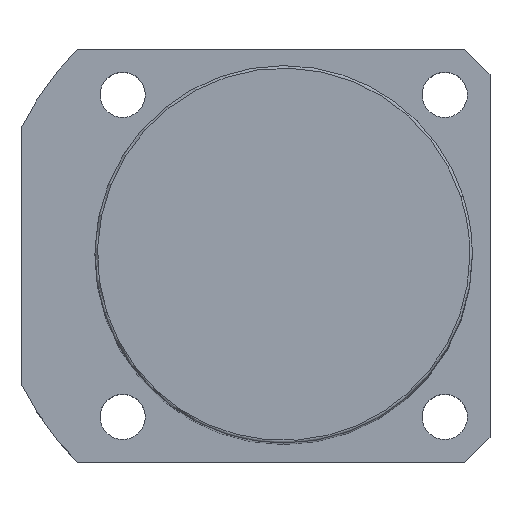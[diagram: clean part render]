
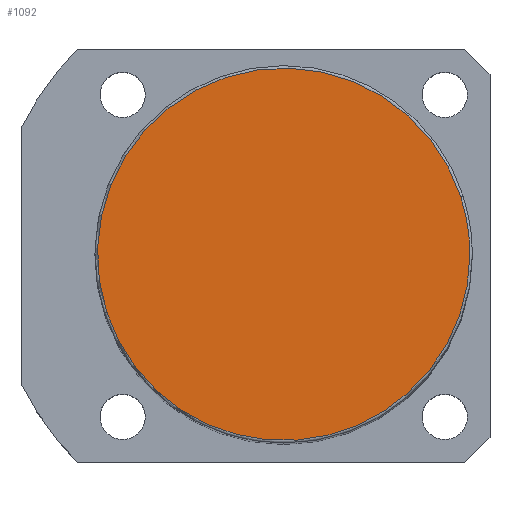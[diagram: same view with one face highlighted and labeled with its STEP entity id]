
A CAD part, top view. The second image highlights one B-rep face of the part: STEP entity #1092.
In plain terms, the highlighted planar face has unit normal (0, 0, 1).
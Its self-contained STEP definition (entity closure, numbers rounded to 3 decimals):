
#1058=CARTESIAN_POINT('',(37.0,0.0,188.0));
#1059=VERTEX_POINT('',#1058);
#1060=CARTESIAN_POINT('',(35.189,11.434,188.0));
#1061=VERTEX_POINT('',#1060);
#1062=CARTESIAN_POINT('',(0.0,0.0,188.0));
#1063=DIRECTION('',(0.0,0.0,1.0));
#1064=DIRECTION('',(1.0,0.0,0.0));
#1065=AXIS2_PLACEMENT_3D('',#1062,#1063,#1064);
#1066=CIRCLE('',#1065,37.0);
#1067=EDGE_CURVE('no 1672',#1059,#1061,#1066,.T.);
#1068=ORIENTED_EDGE('',*,*,#1067,.T.);
#1069=CARTESIAN_POINT('',(-35.189,-11.434,188.0));
#1070=VERTEX_POINT('',#1069);
#1071=CARTESIAN_POINT('',(0.0,0.0,188.0));
#1072=DIRECTION('',(0.0,0.0,1.0));
#1073=DIRECTION('',(1.0,0.0,0.0));
#1074=AXIS2_PLACEMENT_3D('',#1071,#1072,#1073);
#1075=CIRCLE('',#1074,37.0);
#1076=EDGE_CURVE('no 1678',#1061,#1070,#1075,.T.);
#1077=ORIENTED_EDGE('',*,*,#1076,.T.);
#1078=CARTESIAN_POINT('',(0.0,0.0,188.0));
#1079=DIRECTION('',(0.0,0.0,1.0));
#1080=DIRECTION('',(1.0,0.0,0.0));
#1081=AXIS2_PLACEMENT_3D('',#1078,#1079,#1080);
#1082=CIRCLE('',#1081,37.0);
#1083=EDGE_CURVE('no 1682',#1070,#1059,#1082,.T.);
#1084=ORIENTED_EDGE('',*,*,#1083,.T.);
#1085=EDGE_LOOP('',(#1068,#1077,#1084));
#1086=FACE_OUTER_BOUND('',#1085,.T.);
#1087=CARTESIAN_POINT('',(0.0,0.0,188.0));
#1088=DIRECTION('',(0.0,0.0,1.0));
#1089=DIRECTION('',(1.0,0.0,0.0));
#1090=AXIS2_PLACEMENT_3D('',#1087,#1088,#1089);
#1091=PLANE('',#1090);
#1092=ADVANCED_FACE('no 1663',(#1086),#1091,.T.);
